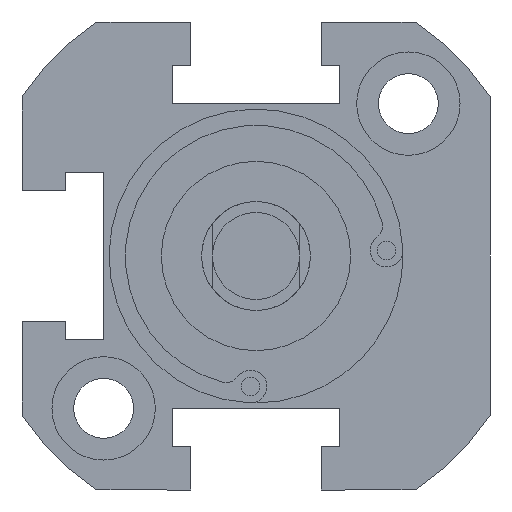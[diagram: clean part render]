
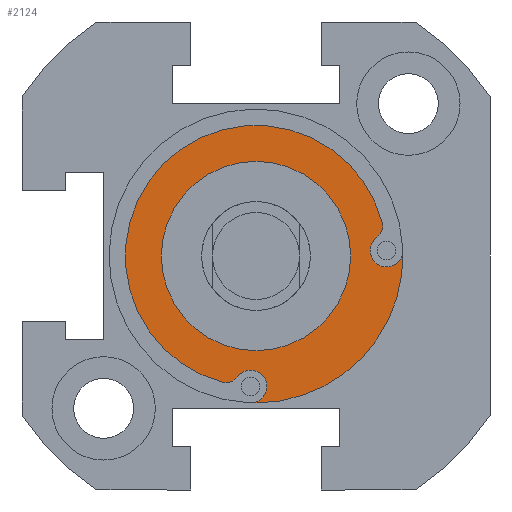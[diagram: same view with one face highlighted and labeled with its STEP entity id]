
A CAD part, front view. The second image highlights one B-rep face of the part: STEP entity #2124.
In plain terms, the highlighted planar face has unit normal (0, -1, 0).
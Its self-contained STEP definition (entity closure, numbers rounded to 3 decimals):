
#70 = ORIENTED_EDGE ( 'NONE', *, *, #175, .T. ) ;
#88 = DIRECTION ( 'NONE',  ( 0., 0., 1. ) ) ;
#107 = CARTESIAN_POINT ( 'NONE',  ( -3.089, -30.5, -11.596 ) ) ;
#169 = DIRECTION ( 'NONE',  ( 0., -1., 0. ) ) ;
#175 = EDGE_CURVE ( 'NONE', #1356, #2640, #2493, .T. ) ;
#185 = ORIENTED_EDGE ( 'NONE', *, *, #2429, .T. ) ;
#228 = CIRCLE ( 'NONE', #1021, 13.5 ) ;
#239 = CIRCLE ( 'NONE', #2319, 1.5 ) ;
#240 = VERTEX_POINT ( 'NONE', #3273 ) ;
#273 = CIRCLE ( 'NONE', #3914, 1.3 ) ;
#339 = DIRECTION ( 'NONE',  ( 0., 1., 0. ) ) ;
#365 = ORIENTED_EDGE ( 'NONE', *, *, #2801, .T. ) ;
#389 = EDGE_CURVE ( 'NONE', #1856, #1422, #889, .T. ) ;
#392 = CARTESIAN_POINT ( 'NONE',  ( -2.754, -30.5, -11.639 ) ) ;
#416 = FACE_OUTER_BOUND ( 'NONE', #1511, .T. ) ;
#429 = EDGE_CURVE ( 'NONE', #3014, #763, #3215, .T. ) ;
#460 = FACE_BOUND ( 'NONE', #701, .T. ) ;
#540 = CARTESIAN_POINT ( 'NONE',  ( 11.107, -30.5, 1.705 ) ) ;
#548 = CARTESIAN_POINT ( 'NONE',  ( 0., -30.5, 0. ) ) ;
#581 = AXIS2_PLACEMENT_3D ( 'NONE', #2291, #3255, #3551 ) ;
#610 = ORIENTED_EDGE ( 'NONE', *, *, #1480, .F. ) ;
#631 = DIRECTION ( 'NONE',  ( 0., 0., -1. ) ) ;
#701 = EDGE_LOOP ( 'NONE', ( #70, #3322 ) ) ;
#763 = VERTEX_POINT ( 'NONE', #1421 ) ;
#805 = CARTESIAN_POINT ( 'NONE',  ( 0., -30.5, -13.5 ) ) ;
#824 = AXIS2_PLACEMENT_3D ( 'NONE', #3286, #1453, #3294 ) ;
#889 = CIRCLE ( 'NONE', #2929, 1.3 ) ;
#910 = ORIENTED_EDGE ( 'NONE', *, *, #1977, .T. ) ;
#914 = CIRCLE ( 'NONE', #1248, 8.7 ) ;
#945 = CARTESIAN_POINT ( 'NONE',  ( 0., -30.5, 0. ) ) ;
#994 = DIRECTION ( 'NONE',  ( 0., -1., 0. ) ) ;
#1021 = AXIS2_PLACEMENT_3D ( 'NONE', #3613, #1469, #3254 ) ;
#1031 = CARTESIAN_POINT ( 'NONE',  ( 0., -30.5, -8.7 ) ) ;
#1039 = CARTESIAN_POINT ( 'NONE',  ( 0., -30.5, 0. ) ) ;
#1110 = DIRECTION ( 'NONE',  ( 0., -1., 0. ) ) ;
#1116 = CIRCLE ( 'NONE', #824, 1.5 ) ;
#1189 = CARTESIAN_POINT ( 'NONE',  ( 0., -30.5, 8.7 ) ) ;
#1198 = DIRECTION ( 'NONE',  ( 0., 0., -1. ) ) ;
#1248 = AXIS2_PLACEMENT_3D ( 'NONE', #1039, #1925, #2225 ) ;
#1325 = ORIENTED_EDGE ( 'NONE', *, *, #389, .T. ) ;
#1356 = VERTEX_POINT ( 'NONE', #1031 ) ;
#1421 = CARTESIAN_POINT ( 'NONE',  ( 11.596, -30.5, 3.089 ) ) ;
#1422 = VERTEX_POINT ( 'NONE', #3736 ) ;
#1453 = DIRECTION ( 'NONE',  ( 0., 1., 0. ) ) ;
#1469 = DIRECTION ( 'NONE',  ( 0., 1., 0. ) ) ;
#1480 = EDGE_CURVE ( 'NONE', #1519, #240, #239, .T. ) ;
#1511 = EDGE_LOOP ( 'NONE', ( #1999, #365, #1325, #910, #1710, #3237, #610, #1906, #185 ) ) ;
#1519 = VERTEX_POINT ( 'NONE', #3823 ) ;
#1545 = PLANE ( 'NONE',  #3411 ) ;
#1689 = CARTESIAN_POINT ( 'NONE',  ( 10.339, -30.5, 2.754 ) ) ;
#1705 = CARTESIAN_POINT ( 'NONE',  ( -0.444, -30.5, -13.493 ) ) ;
#1710 = ORIENTED_EDGE ( 'NONE', *, *, #2004, .F. ) ;
#1727 = AXIS2_PLACEMENT_3D ( 'NONE', #1904, #994, #88 ) ;
#1833 = EDGE_CURVE ( 'NONE', #1971, #1519, #2916, .T. ) ;
#1856 = VERTEX_POINT ( 'NONE', #392 ) ;
#1904 = CARTESIAN_POINT ( 'NONE',  ( 11.994, -30.5, 0.495 ) ) ;
#1906 = ORIENTED_EDGE ( 'NONE', *, *, #1833, .F. ) ;
#1925 = DIRECTION ( 'NONE',  ( 0., 1., 0. ) ) ;
#1971 = VERTEX_POINT ( 'NONE', #540 ) ;
#1977 = EDGE_CURVE ( 'NONE', #1422, #2495, #1116, .T. ) ;
#1999 = ORIENTED_EDGE ( 'NONE', *, *, #429, .F. ) ;
#2004 = EDGE_CURVE ( 'NONE', #2497, #2495, #228, .T. ) ;
#2068 = CIRCLE ( 'NONE', #3152, 1.3 ) ;
#2124 = ADVANCED_FACE ( 'NONE', ( #416, #460 ), #1545, .T. ) ;
#2143 = DIRECTION ( 'NONE',  ( 0., -1., 0. ) ) ;
#2225 = DIRECTION ( 'NONE',  ( 0., 0., 1. ) ) ;
#2291 = CARTESIAN_POINT ( 'NONE',  ( 0., -30.5, 0. ) ) ;
#2295 = CARTESIAN_POINT ( 'NONE',  ( 11.994, -30.5, 0.495 ) ) ;
#2319 = AXIS2_PLACEMENT_3D ( 'NONE', #2295, #1110, #3180 ) ;
#2385 = CIRCLE ( 'NONE', #2464, 13.5 ) ;
#2429 = EDGE_CURVE ( 'NONE', #1971, #763, #2068, .T. ) ;
#2464 = AXIS2_PLACEMENT_3D ( 'NONE', #548, #3242, #3866 ) ;
#2493 = CIRCLE ( 'NONE', #581, 8.7 ) ;
#2495 = VERTEX_POINT ( 'NONE', #1705 ) ;
#2497 = VERTEX_POINT ( 'NONE', #805 ) ;
#2640 = VERTEX_POINT ( 'NONE', #1189 ) ;
#2724 = DIRECTION ( 'NONE',  ( 0., -1., 0. ) ) ;
#2739 = CARTESIAN_POINT ( 'NONE',  ( -2.754, -30.5, -10.339 ) ) ;
#2801 = EDGE_CURVE ( 'NONE', #3014, #1856, #273, .T. ) ;
#2916 = CIRCLE ( 'NONE', #1727, 1.5 ) ;
#2929 = AXIS2_PLACEMENT_3D ( 'NONE', #3003, #2143, #1198 ) ;
#3003 = CARTESIAN_POINT ( 'NONE',  ( -2.754, -30.5, -10.339 ) ) ;
#3014 = VERTEX_POINT ( 'NONE', #107 ) ;
#3049 = DIRECTION ( 'NONE',  ( 0., 0., 1. ) ) ;
#3152 = AXIS2_PLACEMENT_3D ( 'NONE', #1689, #169, #3550 ) ;
#3180 = DIRECTION ( 'NONE',  ( 0., 0., 1. ) ) ;
#3215 = CIRCLE ( 'NONE', #3346, 12. ) ;
#3237 = ORIENTED_EDGE ( 'NONE', *, *, #3528, .F. ) ;
#3242 = DIRECTION ( 'NONE',  ( 0., 1., 0. ) ) ;
#3254 = DIRECTION ( 'NONE',  ( 0., 0., 1. ) ) ;
#3255 = DIRECTION ( 'NONE',  ( 0., 1., 0. ) ) ;
#3273 = CARTESIAN_POINT ( 'NONE',  ( 13.493, -30.5, 0.444 ) ) ;
#3286 = CARTESIAN_POINT ( 'NONE',  ( -0.495, -30.5, -11.994 ) ) ;
#3294 = DIRECTION ( 'NONE',  ( 0., 0., 1. ) ) ;
#3313 = DIRECTION ( 'NONE',  ( 0., 0., 1. ) ) ;
#3322 = ORIENTED_EDGE ( 'NONE', *, *, #3670, .T. ) ;
#3333 = DIRECTION ( 'NONE',  ( 0., -1., 0. ) ) ;
#3346 = AXIS2_PLACEMENT_3D ( 'NONE', #3348, #339, #3313 ) ;
#3348 = CARTESIAN_POINT ( 'NONE',  ( 0., -30.5, 0. ) ) ;
#3411 = AXIS2_PLACEMENT_3D ( 'NONE', #945, #3333, #3049 ) ;
#3528 = EDGE_CURVE ( 'NONE', #240, #2497, #2385, .T. ) ;
#3550 = DIRECTION ( 'NONE',  ( 0., 0., -1. ) ) ;
#3551 = DIRECTION ( 'NONE',  ( 0., 0., 1. ) ) ;
#3613 = CARTESIAN_POINT ( 'NONE',  ( 0., -30.5, 0. ) ) ;
#3670 = EDGE_CURVE ( 'NONE', #2640, #1356, #914, .T. ) ;
#3736 = CARTESIAN_POINT ( 'NONE',  ( -1.705, -30.5, -11.107 ) ) ;
#3823 = CARTESIAN_POINT ( 'NONE',  ( 11.994, -30.5, -1.005 ) ) ;
#3866 = DIRECTION ( 'NONE',  ( 0., 0., 1. ) ) ;
#3914 = AXIS2_PLACEMENT_3D ( 'NONE', #2739, #2724, #631 ) ;
